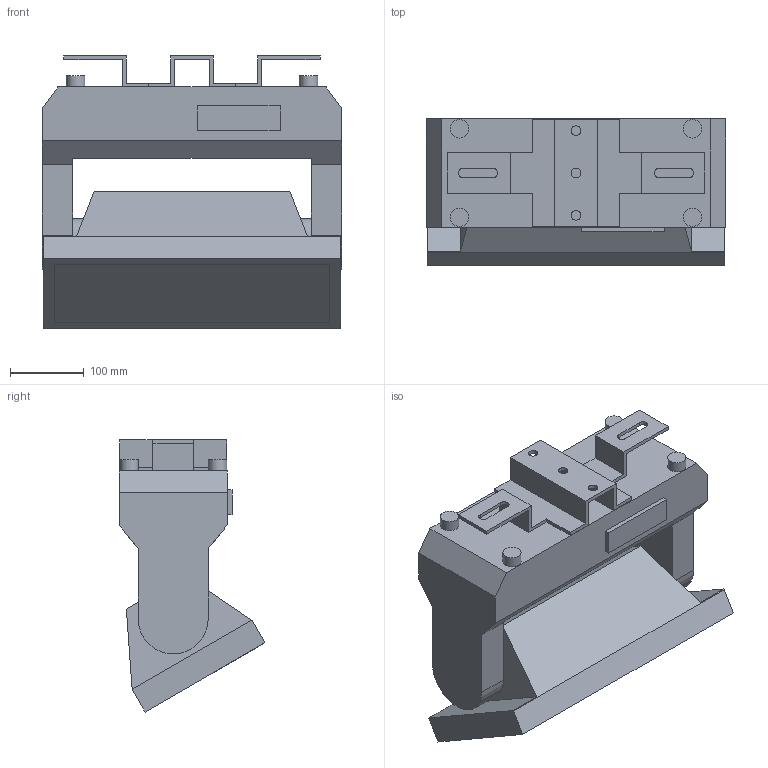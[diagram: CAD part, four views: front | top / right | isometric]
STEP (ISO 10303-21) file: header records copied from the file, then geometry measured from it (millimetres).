
FILE_DESCRIPTION(/* description */ (''),/* implementation_level */ '2;1');
FILE_NAME(/* name */ 'C:\Users\dgooch\Documents\!!CADENG\PRO\Color Strike M\Color Strike M_3D_CAD\Color Strike M_30.step',/* time_stamp */ '2022-07-19T15:39:20-04:00',/* author */ ('dgooch'),/* organization */ (''),/* preprocessor_version */ 'ST-DEVELOPER v19',/* originating_system */ 'Autodesk Inventor 2023',/* authorisation */ '');
FILE_SCHEMA (('AUTOMOTIVE_DESIGN { 1 0 10303 214 3 1 1 }'));
Length unit declared in the file: millimetre
Products named in the file (5): Color Strike M_0; Base (1); Head (1); Bracket (1); CH-CST2000IPC0002 (1)
Assembly tree (4 placements, depth 3):
  Color Strike M_0
    Base (1)
    Head (1)
    Bracket (1)
      CH-CST2000IPC0002 (1)
Bounding box: 407 x 197.96 x 369.13 mm (x, y, z)
Volume: 13652019.4 mm3; surface area: 646239.9 mm2
Topology: 3 solids, 3 shells, 97 faces, 243 edges, 162 vertices
Faces by surface type: plane 80, cylinder 17
Full cylindrical faces by diameter (mm): 13 x3, 25 x4, 54 x4
Entity records: 3089 total; most frequent: CARTESIAN_POINT 511, DIRECTION 489, ORIENTED_EDGE 486, EDGE_CURVE 243, LINE 209, VECTOR 209, VERTEX_POINT 162, AXIS2_PLACEMENT_3D 140
